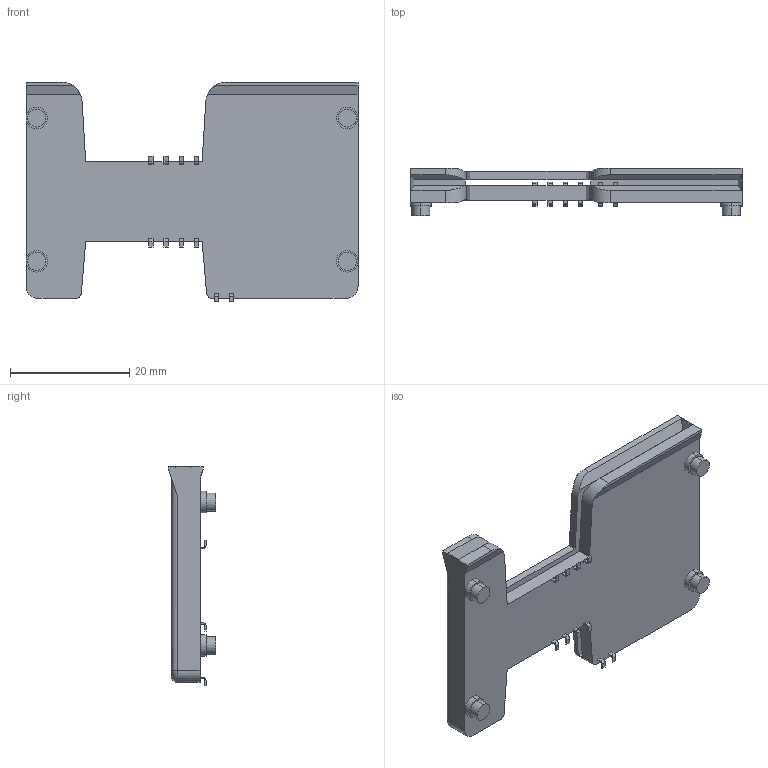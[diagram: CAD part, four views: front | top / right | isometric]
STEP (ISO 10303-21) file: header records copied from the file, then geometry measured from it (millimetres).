
FILE_DESCRIPTION (( 'STEP AP214' ), '1' );
FILE_NAME ('CCM01 MKII.step', '2011-05-17T08:56:49', ( 'vpeshkov' ), ( 'licard' ), 'SwSTEP 2.0', 'SolidWorks 2009', '' );
FILE_SCHEMA (( 'AUTOMOTIVE_DESIGN' ));
Length unit declared in the file: millimetre
Products named in the file (1): CCM01 MKII
Bounding box: 55.6 x 7.9 x 36.77 mm (x, y, z)
Volume: 5894.9 mm3; surface area: 7252.3 mm2
Topology: 1 solids, 1 shells, 379 faces, 1044 edges, 690 vertices
Faces by surface type: plane 264, cylinder 70, bspline 41, torus 2, sphere 2
Entity records: 16446 total; most frequent: CARTESIAN_POINT 5019, ORIENTED_EDGE 2084, DIRECTION 1776, EDGE_CURVE 1042, VECTOR 798, LINE 798, VERTEX_POINT 690, AXIS2_PLACEMENT_3D 489
